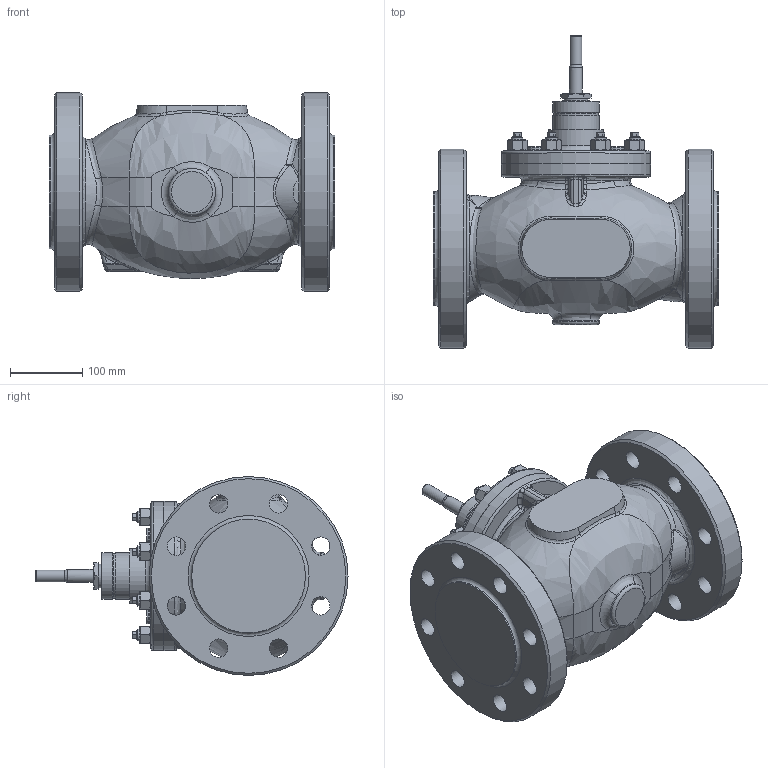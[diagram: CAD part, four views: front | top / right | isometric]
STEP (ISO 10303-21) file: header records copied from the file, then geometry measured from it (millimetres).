
FILE_DESCRIPTION(/* description */ (''),/* implementation_level */ '2;1');
FILE_NAME(/* name */ 'CV3xx_NPS_4_priruba_CL600.stp',/* time_stamp */ '2014-01-07T06:44:29+01:00',/* author */ (''),/* organization */ ('LDM'),/* preprocessor_version */ 'ST-DEVELOPER v11',/* originating_system */ 'SIEMENS PLM Software NX 7.0',/* authorisation */ '');
FILE_SCHEMA (('CONFIG_CONTROL_DESIGN'));
Length unit declared in the file: millimetre
Products named in the file (1): adamED63ysxi
Bounding box: 394 x 431.5 x 275 mm (x, y, z)
Volume: 15006891.1 mm3; surface area: 637309.5 mm2
Topology: 1 solids, 1 shells, 668 faces, 1528 edges, 901 vertices
Faces by surface type: cone 187, plane 186, cylinder 144, bspline 92, torus 47, sphere 12
Full cylindrical faces by diameter (mm): 12.5 x8, 16 x25, 18 x9, 22 x4, 24 x16, 25.4 x16, 27 x1, 33 x1, 61.6 x1, 64 x1, 65 x2, 75 x1, 140 x1, 157.2 x2, 206 x2, 275 x2
Entity records: 20567 total; most frequent: CARTESIAN_POINT 7459, ORIENTED_EDGE 2592, DIRECTION 2534, EDGE_CURVE 1296, AXIS2_PLACEMENT_3D 1146, EDGE_LOOP 917, VERTEX_POINT 832, ADVANCED_FACE 668
